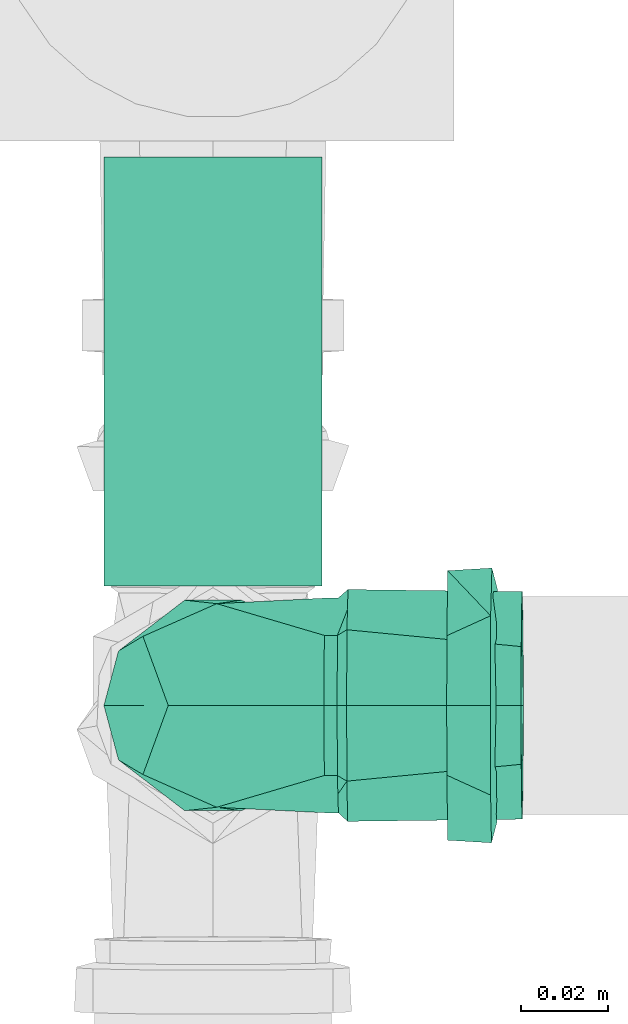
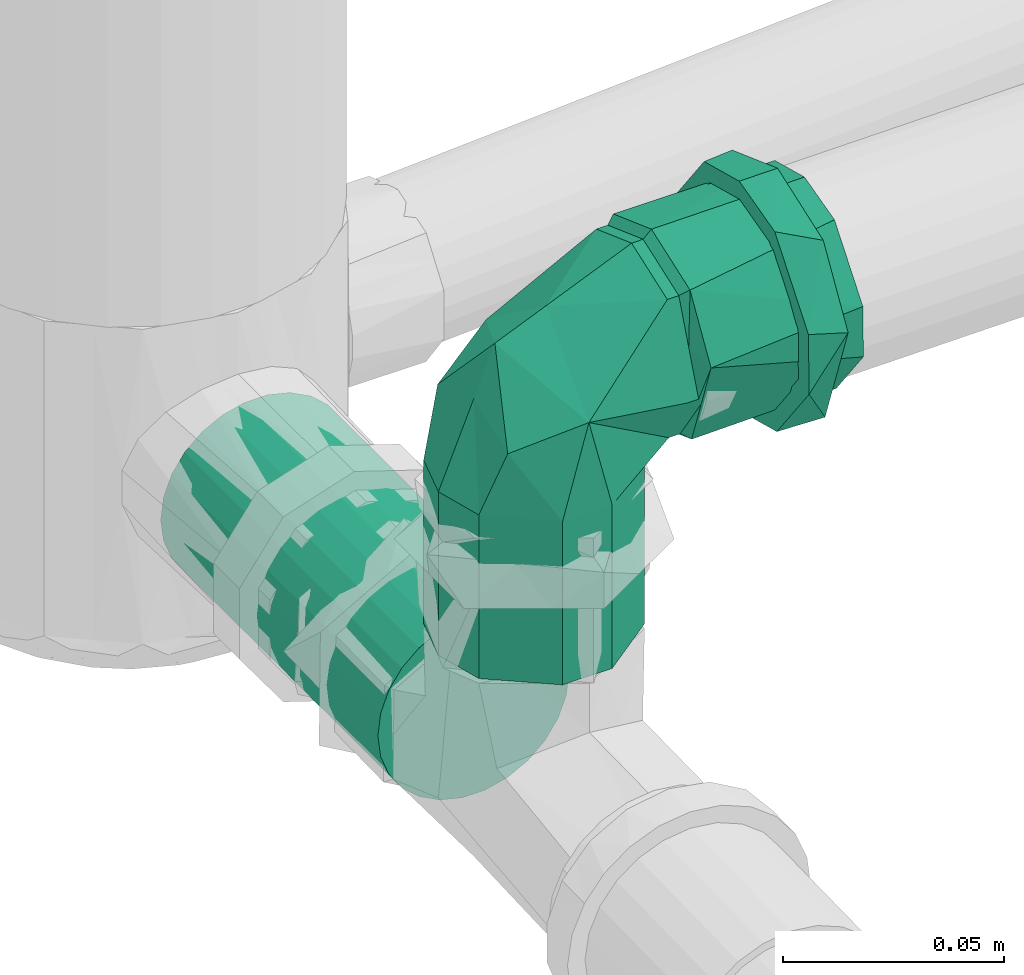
# One storey, part 134 of 589: 1 flow fitting, 1 flow segment.
"""IFC2X3 building model written with IfcOpenShell, lengths in millimetres."""

import ifcopenshell
import ifcopenshell.guid

model = None  # the IFC model being written
_history = None  # IfcOwnerHistory: only IFC2X3 demands one
_inside = {}  # id of a spatial element -> (the spatial element, [elements in it])
_under = {}  # id of a project, library or spatial element -> (it, [spatial elements below it])
_declared = {}  # id of a project -> (the project, [libraries it declares])
_typed = {}  # id of a type object -> (the type object, [elements of that type])
_made_of = {}  # id of a material, layer set ... -> (it, [elements and type objects made of it])


def new_model(schema):
    """Start an empty IFC model of exactly this schema.

    Asked for "IFC4X3", IfcOpenShell would pick the latest addendum, in which some entities
    have other attributes; the version numbers below select the first issue.
    IFC2X3 requires an IfcOwnerHistory on every rooted entity: one is made here for all.
    """
    global model, _history
    if schema == "IFC4X3":
        model = ifcopenshell.file(schema_version=(4, 3, 0, 0))
    else:
        model = ifcopenshell.file(schema=schema)
    _inside.clear()
    _under.clear()
    _declared.clear()
    _typed.clear()
    _made_of.clear()
    _history = None
    if model.schema == "IFC2X3":
        org = make("IfcOrganization", Name="unknown")
        user = make(
            "IfcPersonAndOrganization",
            ThePerson=make("IfcPerson", FamilyName="unknown"),
            TheOrganization=org,
        )
        app = make(
            "IfcApplication",
            ApplicationDeveloper=org,
            Version="unknown",
            ApplicationFullName="unknown",
            ApplicationIdentifier="unknown",
        )
        _history = make(
            "IfcOwnerHistory",
            OwningUser=user,
            OwningApplication=app,
            ChangeAction="ADDED",
            CreationDate=0,
        )
    return model


def make(cls, **values):
    """One entity of the class cls with the attributes given. An attribute that is None is left unset."""
    return model.create_entity(
        cls, **{name: value for name, value in values.items() if value is not None}
    )


def entity(cls, *values):
    """Any entity or typed value of the class cls, its attributes in the order of the schema. None: left unset."""
    e = model.create_entity(cls)
    for i, value in enumerate(values):
        if value is not None:
            e[i] = value
    return e


def rooted(cls, **values):
    """An entity with a GlobalId (a new one), such as an element, a storey or a relation."""
    return make(cls, GlobalId=ifcopenshell.guid.new(), OwnerHistory=_history, **values)


def si_unit(unit_type, name, prefix=None):
    """IfcSIUnit, for example si_unit("LENGTHUNIT", "METRE", prefix="MILLI")."""
    return make("IfcSIUnit", UnitType=unit_type, Prefix=prefix, Name=name)


def converted_unit(unit_type, name, factor, base, dimensions=None, offset=None):
    """IfcConversionBasedUnit, such as the inch: factor (a typed value) times the base unit."""
    return make(
        "IfcConversionBasedUnit"
        if offset is None
        else "IfcConversionBasedUnitWithOffset",
        ConversionOffset=offset,
        Dimensions=None
        if dimensions is None
        else entity("IfcDimensionalExponents", *dimensions),
        UnitType=unit_type,
        Name=name,
        ConversionFactor=make(
            "IfcMeasureWithUnit", ValueComponent=factor, UnitComponent=base
        ),
    )


def derived_unit(unit_type, elements):
    """IfcDerivedUnit: a product of units, each with its exponent."""
    return make(
        "IfcDerivedUnit",
        Elements=[
            make("IfcDerivedUnitElement", Unit=unit, Exponent=power)
            for unit, power in elements
        ],
        UnitType=unit_type,
    )


def assignment(units):
    """IfcUnitAssignment: the units of a project."""
    return None if units is None else make("IfcUnitAssignment", Units=units)


def point(xyz):
    """IfcCartesianPoint."""
    return None if xyz is None else make("IfcCartesianPoint", Coordinates=xyz)


def direction(xyz):
    """IfcDirection."""
    return None if xyz is None else make("IfcDirection", DirectionRatios=xyz)


def frame(location, z_axis=None, x_axis=None):
    """IfcAxis2Placement3D, a coordinate frame: its origin and axes. An axis left out is left unset."""
    return make(
        "IfcAxis2Placement3D",
        Location=point(location),
        Axis=direction(z_axis),
        RefDirection=direction(x_axis),
    )


def frame_2d(location, x_axis=None):
    """IfcAxis2Placement2D, a coordinate frame in the plane: its origin and x axis."""
    return make(
        "IfcAxis2Placement2D", Location=point(location), RefDirection=direction(x_axis)
    )


def origin():
    """The frame at (0, 0, 0) with its axes left unset."""
    return frame((0.0, 0.0, 0.0))


def place(relative_to, where):
    """IfcLocalPlacement: puts the frame where relative to a parent placement (None: the world)."""
    return make(
        "IfcLocalPlacement", PlacementRelTo=relative_to, RelativePlacement=where
    )


def context(
    kind, dimensions, precision=None, world=None, true_north=None, identifier=None
):
    """IfcGeometricRepresentationContext, for example the 3D "Model" context."""
    return make(
        "IfcGeometricRepresentationContext",
        ContextIdentifier=identifier,
        ContextType=kind,
        CoordinateSpaceDimension=dimensions,
        Precision=precision,
        WorldCoordinateSystem=world,
        TrueNorth=true_north,
    )


def subcontext(parent, identifier, kind, view, scale=None):
    """IfcGeometricRepresentationSubContext, for example "Body" below "Model"."""
    return make(
        "IfcGeometricRepresentationSubContext",
        ContextIdentifier=identifier,
        ContextType=kind,
        ParentContext=parent,
        TargetScale=scale,
        TargetView=view,
    )


def project(units=None, contexts=None):
    """IfcProject with its units and contexts."""
    return rooted(
        "IfcProject",
        Name="project",
        RepresentationContexts=contexts,
        UnitsInContext=assignment(units),
    )


def spatial(cls, under=None, at=None, **own):
    """A site, building, storey or space (cls), placed at a placement, below another one or the project."""
    s = rooted(cls, ObjectPlacement=at, **own)
    if under is not None:
        _under.setdefault(under.id(), (under, []))[1].append(s)
    return s


def profile(cls, at=None, kind="AREA", **sizes):
    """A parametric profile (cls). Its sizes go by their IFC names, for example OverallWidth=200.0."""
    return make(cls, ProfileType=kind, Position=at, **sizes)


def circle(**sizes):
    """IfcCircleProfileDef."""
    return profile("IfcCircleProfileDef", **sizes)


def extrude(swept, where, along, depth):
    """IfcExtrudedAreaSolid: the profile swept, set in the frame where, extruded along a direction by depth."""
    return make(
        "IfcExtrudedAreaSolid",
        SweptArea=swept,
        Position=where,
        ExtrudedDirection=direction(along),
        Depth=depth,
    )


def faces_of(points, faces, orient=None, outer=None):
    """IfcFace entities. A face is a list of loops; a loop is a list of indices into points, from 0.

    orient and outer hold one flag for each loop. By default every Orientation is true, the
    first loop of a face is its IfcFaceOuterBound and the others are IfcFaceBound.
    """
    made = []
    for i, loops in enumerate(faces):
        bounds = []
        for j, loop in enumerate(loops):
            is_outer = j == 0 if outer is None else outer[i][j]
            bounds.append(
                make(
                    "IfcFaceOuterBound" if is_outer else "IfcFaceBound",
                    Bound=make("IfcPolyLoop", Polygon=[points[k] for k in loop]),
                    Orientation=True if orient is None else orient[i][j],
                )
            )
        made.append(make("IfcFace", Bounds=bounds))
    return made


def faceted_brep(points, faces, orient=None, outer=None, voids=None):
    """IfcFacetedBrep: a solid bounded by flat faces; with voids (closed shells), ...WithVoids."""
    shared = [point(p) for p in points]
    hull = make("IfcClosedShell", CfsFaces=faces_of(shared, faces, orient, outer))
    if voids is None:
        return make("IfcFacetedBrep", Outer=hull)
    return make(
        "IfcFacetedBrepWithVoids",
        Outer=hull,
        Voids=[
            make(cls, CfsFaces=faces_of(shared, fs, o, b)) for cls, fs, o, b in voids
        ],
    )


def shape(context_of_items, identifier, shape_type, items):
    """IfcShapeRepresentation: the items that make up one representation, for example the "Body"."""
    return make(
        "IfcShapeRepresentation",
        ContextOfItems=context_of_items,
        RepresentationIdentifier=identifier,
        RepresentationType=shape_type,
        Items=items,
    )


def source(mapping_origin, context_of_items, identifier, shape_type, items):
    """IfcRepresentationMap: a shape defined once, which mapped items show again and again."""
    return make(
        "IfcRepresentationMap",
        MappingOrigin=mapping_origin,
        MappedRepresentation=shape(context_of_items, identifier, shape_type, items),
    )


def transform(
    local_origin,
    x_axis=None,
    y_axis=None,
    z_axis=None,
    scale=None,
    scale2=None,
    scale3=None,
    uniform=True,
):
    """IfcCartesianTransformationOperator3D, or its non-uniform kind. x_axis, y_axis, z_axis: its Axis1, 2, 3."""
    if uniform:
        return make(
            "IfcCartesianTransformationOperator3D",
            Axis1=direction(x_axis),
            Axis2=direction(y_axis),
            LocalOrigin=point(local_origin),
            Scale=scale,
            Axis3=direction(z_axis),
        )
    return make(
        "IfcCartesianTransformationOperator3DnonUniform",
        Axis1=direction(x_axis),
        Axis2=direction(y_axis),
        LocalOrigin=point(local_origin),
        Scale=scale,
        Axis3=direction(z_axis),
        Scale2=scale2,
        Scale3=scale3,
    )


def mapped(mapping_source, mapping_target):
    """IfcMappedItem: shows the shape of a source again, moved by a transform."""
    return make(
        "IfcMappedItem", MappingSource=mapping_source, MappingTarget=mapping_target
    )


def material(Name=None, Category=None):
    """IfcMaterial."""
    return make("IfcMaterial", Name=Name, Category=Category)


def made_of(thing, what):
    """Note that an element or type object is made of a material, layer set ...; save() writes the relation."""
    if what is not None:
        _made_of.setdefault(what.id(), (what, []))[1].append(thing)
    return thing


def type_object(cls, material=None, **own):
    """A type object (cls), such as IfcWallType, which elements share."""
    return made_of(rooted(cls, **own), material)


def type_shapes(of_type, sources):
    """Give a type object the sources (RepresentationMaps) that its elements show as mapped items."""
    of_type.RepresentationMaps = sources


def element(
    cls,
    number,
    at=None,
    inside=None,
    cuts=None,
    type_object=None,
    material=None,
    context=None,
    identifier="Body",
    shape_type=None,
    held_by="IfcProductDefinitionShape",
    body=None,
    shapes=None,
    **own,
):
    """One element of the class cls, such as IfcWall. Its Tag is "e" and its number.

    at: its placement. inside: the storey or other place that contains it. cuts: it is an
    opening in that element (IfcRelVoidsElement). A single representation is given by context,
    identifier, shape_type and body (its items); several are given by shapes. held_by: the class
    of the entity that holds the representations. save() writes the other relations.
    """
    e = rooted(cls, Tag="e%d" % number, ObjectPlacement=at, **own)
    if body is not None:
        shapes = [shape(context, identifier, shape_type, body)]
    if shapes is not None:
        e.Representation = make(held_by, Representations=shapes)
    if inside is not None:
        _inside.setdefault(inside.id(), (inside, []))[1].append(e)
    if cuts is not None:
        rooted(
            "IfcRelVoidsElement", RelatingBuildingElement=cuts, RelatedOpeningElement=e
        )
    if type_object is not None:
        _typed.setdefault(type_object.id(), (type_object, []))[1].append(e)
    return made_of(e, material)


def aggregate(whole, parts):
    """IfcRelAggregates: a whole, such as a stair, and the parts it consists of."""
    return rooted("IfcRelAggregates", RelatingObject=whole, RelatedObjects=parts)


def save(model, path):
    """Write the relations noted so far, then the file.

    IfcRelAggregates (storeys below a building ...), IfcRelContainedInSpatialStructure (elements
    in a storey), IfcRelDefinesByType, IfcRelAssociatesMaterial and IfcRelDeclares: one each for
    every whole, place, type object, material and project.
    """
    for whole, parts in _under.values():
        aggregate(whole, parts)
    for where, things in _inside.values():
        rooted(
            "IfcRelContainedInSpatialStructure",
            RelatedElements=things,
            RelatingStructure=where,
        )
    for kind, things in _typed.values():
        rooted("IfcRelDefinesByType", RelatedObjects=things, RelatingType=kind)
    for what, things in _made_of.values():
        rooted("IfcRelAssociatesMaterial", RelatedObjects=things, RelatingMaterial=what)
    for by, libraries in _declared.values():
        rooted("IfcRelDeclares", RelatingContext=by, RelatedDefinitions=libraries)
    model.write(path)


model = new_model("IFC2X3")

# Units and contexts
model_context = context("Model", 3, precision=0.01, world=origin(), true_north=direction((6.123031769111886e-17, 1.0)))
body_context = subcontext(model_context, "Body", "Model", "MODEL_VIEW")
ifc_project = project(units=[si_unit("LENGTHUNIT", "METRE", prefix="MILLI"), si_unit("AREAUNIT", "SQUARE_METRE"), si_unit("VOLUMEUNIT", "CUBIC_METRE"), converted_unit("PLANEANGLEUNIT", "DEGREE", entity("IfcRatioMeasure", 0.017453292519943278), si_unit("PLANEANGLEUNIT", "RADIAN"), dimensions=[0, 0, 0, 0, 0, 0, 0]), si_unit("MASSUNIT", "GRAM", prefix="KILO"), derived_unit("MASSDENSITYUNIT", [(si_unit("MASSUNIT", "GRAM", prefix="KILO"), 1), (si_unit("LENGTHUNIT", "METRE"), -3)]), derived_unit("IONCONCENTRATIONUNIT", [(si_unit("MASSUNIT", "GRAM", prefix="KILO"), 1), (si_unit("LENGTHUNIT", "METRE"), -3)]), derived_unit("MOMENTOFINERTIAUNIT", [(si_unit("LENGTHUNIT", "METRE"), 4)]), si_unit("TIMEUNIT", "SECOND"), si_unit("FREQUENCYUNIT", "HERTZ"), si_unit("THERMODYNAMICTEMPERATUREUNIT", "DEGREE_CELSIUS"), derived_unit("THERMALTRANSMITTANCEUNIT", [(si_unit("MASSUNIT", "GRAM", prefix="KILO"), 1), (si_unit("THERMODYNAMICTEMPERATUREUNIT", "KELVIN"), -1), (si_unit("TIMEUNIT", "SECOND"), -3)]), derived_unit("THERMALCONDUCTANCEUNIT", [(si_unit("MASSUNIT", "GRAM", prefix="KILO"), 1), (si_unit("THERMODYNAMICTEMPERATUREUNIT", "KELVIN"), -1), (si_unit("TIMEUNIT", "SECOND"), -3), (si_unit("LENGTHUNIT", "METRE"), 1)]), derived_unit("VOLUMETRICFLOWRATEUNIT", [(si_unit("LENGTHUNIT", "METRE"), 3), (si_unit("TIMEUNIT", "SECOND"), -1)]), derived_unit("MASSFLOWRATEUNIT", [(si_unit("MASSUNIT", "GRAM", prefix="KILO"), 1), (si_unit("TIMEUNIT", "SECOND"), -1)]), derived_unit("ROTATIONALFREQUENCYUNIT", [(si_unit("TIMEUNIT", "SECOND"), -1)]), si_unit("ELECTRICCURRENTUNIT", "AMPERE"), si_unit("ELECTRICVOLTAGEUNIT", "VOLT"), si_unit("POWERUNIT", "WATT"), si_unit("FORCEUNIT", "NEWTON", prefix="KILO"), si_unit("ILLUMINANCEUNIT", "LUX"), si_unit("LUMINOUSFLUXUNIT", "LUMEN"), si_unit("LUMINOUSINTENSITYUNIT", "CANDELA"), derived_unit("USERDEFINED", [(si_unit("MASSUNIT", "GRAM", prefix="KILO"), -1), (si_unit("LENGTHUNIT", "METRE"), -2), (si_unit("TIMEUNIT", "SECOND"), 3), (si_unit("LUMINOUSFLUXUNIT", "LUMEN"), 1)]), derived_unit("USERDEFINED", [(si_unit("MASSUNIT", "GRAM", prefix="KILO"), 1), (si_unit("TIMEUNIT", "SECOND"), -3), (si_unit("LENGTHUNIT", "METRE"), 3), (si_unit("ELECTRICCURRENTUNIT", "AMPERE"), -2)]), derived_unit("SOUNDPOWERUNIT", [(si_unit("MASSUNIT", "GRAM", prefix="KILO"), 1), (si_unit("TIMEUNIT", "SECOND"), -3), (si_unit("LENGTHUNIT", "METRE"), 2)]), derived_unit("SOUNDPRESSUREUNIT", [(si_unit("MASSUNIT", "GRAM", prefix="KILO"), 1), (si_unit("LENGTHUNIT", "METRE"), -1), (si_unit("TIMEUNIT", "SECOND"), -2)]), derived_unit("LINEARVELOCITYUNIT", [(si_unit("LENGTHUNIT", "METRE"), 1), (si_unit("TIMEUNIT", "SECOND"), -1)]), si_unit("PRESSUREUNIT", "PASCAL"), derived_unit("USERDEFINED", [(si_unit("MASSUNIT", "GRAM", prefix="KILO"), 1), (si_unit("LENGTHUNIT", "METRE"), -2), (si_unit("TIMEUNIT", "SECOND"), -2)]), derived_unit("LINEARFORCEUNIT", [(si_unit("MASSUNIT", "GRAM", prefix="KILO"), 1), (si_unit("TIMEUNIT", "SECOND"), -2)]), derived_unit("PLANARFORCEUNIT", [(si_unit("MASSUNIT", "GRAM", prefix="KILO"), 1), (si_unit("LENGTHUNIT", "METRE"), -1), (si_unit("TIMEUNIT", "SECOND"), -2)]), derived_unit("SPECIFICHEATCAPACITYUNIT", [(si_unit("THERMODYNAMICTEMPERATUREUNIT", "KELVIN"), -1), (si_unit("LENGTHUNIT", "METRE"), 2), (si_unit("TIMEUNIT", "SECOND"), -2)]), derived_unit("HEATINGVALUEUNIT", [(si_unit("LENGTHUNIT", "METRE"), 2), (si_unit("TIMEUNIT", "SECOND"), -2)]), derived_unit("VAPORPERMEABILITYUNIT", [(si_unit("LENGTHUNIT", "METRE"), -1), (si_unit("TIMEUNIT", "SECOND"), 1)]), derived_unit("DYNAMICVISCOSITYUNIT", [(si_unit("MASSUNIT", "GRAM", prefix="KILO"), 1), (si_unit("TIMEUNIT", "SECOND"), -1), (si_unit("LENGTHUNIT", "METRE"), -1)]), derived_unit("THERMALEXPANSIONCOEFFICIENTUNIT", [(si_unit("THERMODYNAMICTEMPERATUREUNIT", "KELVIN"), -1)]), derived_unit("MODULUSOFELASTICITYUNIT", [(si_unit("MASSUNIT", "GRAM", prefix="KILO"), 1), (si_unit("LENGTHUNIT", "METRE"), -1), (si_unit("TIMEUNIT", "SECOND"), -2)]), derived_unit("ISOTHERMALMOISTURECAPACITYUNIT", [(si_unit("LENGTHUNIT", "METRE"), 3), (si_unit("MASSUNIT", "GRAM", prefix="KILO"), -1)]), derived_unit("MOISTUREDIFFUSIVITYUNIT", [(si_unit("TIMEUNIT", "SECOND"), -1), (si_unit("LENGTHUNIT", "METRE"), 2)])], contexts=[model_context])

# Site, building, storey
site_placement = place(None, origin())
site = spatial("IfcSite", under=ifc_project, at=site_placement, Name="Default", CompositionType="ELEMENT")
building_placement = place(site_placement, origin())
building = spatial("IfcBuilding", under=site, at=building_placement, CompositionType="ELEMENT")
storey_placement = place(building_placement, frame((0.0, 0.0, 100.0)))
storey = spatial("IfcBuildingStorey", under=building, at=storey_placement, Name="TÉRREO", CompositionType="ELEMENT", Elevation=100.0)

# Flow segment
pipe_segment_type = type_object("IfcPipeSegmentType", Name="Tipos de tubos:PVC Esgoto Série Normal", PredefinedType="NOTDEFINED")
flow_segment_placement = place(storey_placement, origin())
element("IfcFlowSegment", 1, at=flow_segment_placement, inside=storey, type_object=pipe_segment_type, Name="Tipos de tubos:PVC Esgoto Série Normal", ObjectType="Tipos de tubos:PVC Esgoto Série Normal", context=body_context, shape_type="SweptSolid", body=[
    extrude(circle(Radius=25.0, at=frame_2d((0.0, -1.6919798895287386e-14), x_axis=(1.0, 0.0))), frame((9003.026170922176, -9866.636274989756, -188.50286149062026), z_axis=(0.0, 1.0, 0.0), x_axis=(-1.0, 0.0, 0.0)), (0.0, 0.0, 1.0), 98.3565976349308),
])

# Flow fitting
ifc_material = material(Name="PVC Série Normal")
pipe_fitting_type = type_object("IfcPipeFittingType", Name="PVC Esgoto_Joelho 45_90_Rodrigo MEP:a. Série Normal", PredefinedType="NOTDEFINED", material=ifc_material)
shared_shape = source(origin(), body_context, "Body", "Brep", [
    faceted_brep([(-70.94129996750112, -21.650635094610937, -12.500000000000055), (-70.94129996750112, -25.0, 0.0), (-70.94129996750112, -21.650635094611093, 12.499999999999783), (-70.94129996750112, -6.470476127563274, 24.148145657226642), (-70.94129996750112, 6.470476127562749, 24.14814565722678), (-70.94129996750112, 21.650635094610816, 12.500000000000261), (-70.94129996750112, 25.0, 0.0), (-70.94129996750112, 21.650635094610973, -12.499999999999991), (-70.94129996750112, 6.4704761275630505, -24.1481456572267), (-70.94129996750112, -6.4704761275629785, -24.14814565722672), (-25.74129996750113, 6.4704761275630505, -24.1481456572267), (-25.74129996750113, 21.650635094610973, -12.499999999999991), (-25.74129996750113, 25.0, 0.0), (-25.74129996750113, 21.650635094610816, 12.500000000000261), (-25.74129996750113, 6.470476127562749, 24.14814565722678), (-25.74129996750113, -6.470476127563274, 24.148145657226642), (-25.74129996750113, -21.650635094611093, 12.499999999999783), (-25.74129996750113, -25.0, 0.0), (-25.74129996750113, -21.650635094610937, -12.500000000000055), (-25.74129996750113, -6.4704761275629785, -24.14814565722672)], [[[0, 1, 2, 3, 4, 5, 6, 7, 8, 9]], [[10, 11, 12, 13, 14, 15, 16, 17, 18, 19]], [[1, 17, 16, 2]], [[2, 16, 15, 3]], [[15, 14, 4, 3]], [[4, 14, 13, 5]], [[5, 13, 12, 6]], [[6, 12, 11, 7]], [[7, 11, 10, 8]], [[10, 19, 9, 8]], [[9, 19, 18, 0]], [[0, 18, 17, 1]]]),
    faceted_brep([(7.527150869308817, 53.86872545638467, -26.079997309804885), (-6.448378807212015, 54.008480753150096, -26.079997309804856), (-7.742409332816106, 54.02142105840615, -30.90962644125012), (8.8211813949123, 53.85578515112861, -30.90962644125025), (23.920902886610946, 53.70478793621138, -13.500000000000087), (-27.172041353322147, 54.215717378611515, -16.0), (-22.842130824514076, 54.172418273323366, -13.499999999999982), (-26.459264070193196, 54.20858960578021, 0.0), (-31.45901408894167, 54.25858710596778, 0.0), (-22.842130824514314, 54.172418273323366, 13.499999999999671), (-27.17204135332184, 54.21571737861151, 16.0), (-6.448378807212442, 54.008480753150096, 26.079997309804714), (-7.742409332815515, 54.02142105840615, 30.909626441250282), (7.527150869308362, 53.86872545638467, 26.07999730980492), (8.821181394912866, 53.8557851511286, 30.909626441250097), (23.92090288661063, 53.70478793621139, 13.500000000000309), (28.250813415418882, 53.66148883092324, 16.0), (32.53778615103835, 53.618619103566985, 0.0), (27.538036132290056, 53.66861660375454, 0.0), (28.250813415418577, 53.66148883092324, -16.0), (32.63778115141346, 63.61811914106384, 0.0), (25.150431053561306, 63.692992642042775, 20.570569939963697), (-4.921474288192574, 63.99371169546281, 31.513073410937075), (-23.876827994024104, 64.1832652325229, 20.564420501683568), (-31.359019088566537, 64.25808714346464, 0.0), (-23.876827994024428, 64.1832652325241, -20.564420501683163), (6.192331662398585, 63.88257363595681, -31.51446740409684), (25.150431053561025, 63.692992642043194, -20.57056993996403), (-26.35926906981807, 64.20808964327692, 0.0), (-26.346269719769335, 65.50802464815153, 0.0), (-24.550702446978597, 64.19000397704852, 6.749999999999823), (-22.742135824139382, 64.1719183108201, 13.49999999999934), (-18.643697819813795, 64.1309339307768, 16.644999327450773), (-14.545259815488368, 64.08994955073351, 19.789998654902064), (-10.446821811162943, 64.04896517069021, 22.934997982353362), (-6.34838380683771, 64.00798079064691, 26.07999730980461), (0.63938103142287, 63.938103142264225, 26.07999730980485), (7.627145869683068, 63.86822549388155, 26.079997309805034), (11.725583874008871, 63.82724111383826, 22.934997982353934), (15.824021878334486, 63.78625673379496, 19.789998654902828), (19.922459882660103, 63.74527235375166, 16.64499932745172), (24.020897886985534, 63.70428797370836, 13.500000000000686), (25.82946450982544, 63.686202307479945, 6.750000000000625), (27.65103048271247, 64.96805164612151, 0.0), (27.638031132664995, 63.66811664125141, 0.0), (25.82946450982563, 63.686202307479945, -6.750000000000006), (24.020897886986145, 63.70428797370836, -13.499999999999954), (19.922459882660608, 63.74527235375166, -16.644999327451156), (15.824021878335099, 63.78625673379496, -19.789998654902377), (11.72558387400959, 63.82724111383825, -22.934997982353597), (7.62714586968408, 63.86822549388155, -26.07999730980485), (0.6393810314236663, 63.938103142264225, -26.079997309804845), (-6.348383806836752, 64.0079807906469, -26.079997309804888), (-10.446821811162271, 64.0489651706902, -22.93499798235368), (-14.545259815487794, 64.0899495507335, -19.78999865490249), (-18.64369781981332, 64.1309339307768, -16.644999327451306), (-22.742135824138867, 64.17191831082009, -13.50000000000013), (-24.550702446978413, 64.1900039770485, -6.7500000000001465), (24.494481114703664, 64.99961713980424, 8.675614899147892), (21.337931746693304, 65.03118263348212, 17.3512297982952), (14.995218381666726, 65.09460976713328, 19.661005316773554), (8.652505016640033, 65.15803690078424, 21.970780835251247), (2.3097916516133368, 65.22146403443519, 24.280556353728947), (-4.032921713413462, 65.28489116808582, 26.590331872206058), (-20.02881807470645, 65.44485013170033, 17.356418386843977), (-23.187543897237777, 65.47643738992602, 8.678209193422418), (-12.030869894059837, 65.36487064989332, 21.97337512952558), (-23.187543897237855, 65.47643738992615, -8.678209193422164), (-20.028818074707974, 65.44485013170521, -17.35641838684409), (-13.68552554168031, 65.38141720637, -19.664602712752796), (-7.342233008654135, 65.31798428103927, -21.972787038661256), (-0.998940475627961, 65.25455135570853, -24.280971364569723), (5.344352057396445, 65.1911184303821, -26.589155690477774), (21.3379317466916, 65.03118263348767, -17.35122979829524), (24.494481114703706, 64.9996171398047, -8.675614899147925), (13.34114190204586, 65.11115053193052, -21.970192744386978)], [[[0, 1, 2]], [[2, 3, 0]], [[4, 0, 3]], [[5, 2, 1]], [[1, 6, 5]], [[6, 7, 5]], [[8, 5, 7]], [[8, 7, 9]], [[10, 8, 9]], [[9, 11, 10]], [[11, 12, 10]], [[13, 12, 11]], [[12, 13, 14]], [[13, 15, 14]], [[16, 14, 15]], [[16, 15, 17]], [[17, 15, 18]], [[18, 4, 19]], [[17, 18, 19]], [[3, 19, 4]], [[20, 21, 16]], [[20, 16, 17]], [[16, 21, 14]], [[21, 22, 14]], [[12, 22, 23]], [[10, 23, 24]], [[23, 10, 12]], [[10, 24, 8]], [[22, 12, 14]], [[24, 25, 5]], [[24, 5, 8]], [[5, 25, 2]], [[25, 26, 2]], [[3, 26, 27]], [[19, 27, 20]], [[27, 19, 3]], [[19, 20, 17]], [[26, 3, 2]], [[9, 7, 28, 29, 30, 31]], [[11, 9, 31, 32, 33, 34, 35]], [[11, 35, 36, 37, 13]], [[15, 13, 37, 38, 39, 40, 41]], [[18, 15, 41, 42, 43, 44]], [[4, 18, 44, 43, 45, 46]], [[0, 4, 46, 47, 48, 49, 50]], [[0, 50, 51, 52, 1]], [[6, 1, 52, 53, 54, 55, 56]], [[7, 6, 56, 57, 29, 28]], [[20, 43, 58, 59]], [[59, 21, 20]], [[21, 59, 60, 61, 62, 63]], [[21, 63, 22]], [[23, 64, 65, 29]], [[23, 22, 64]], [[24, 23, 29]], [[22, 63, 66, 64]], [[25, 29, 67, 68]], [[29, 25, 24]], [[25, 68, 26]], [[26, 68, 69, 70, 71, 72]], [[20, 73, 74, 43]], [[27, 72, 75, 73]], [[27, 73, 20]], [[72, 27, 26]], [[41, 40, 39, 59]], [[31, 65, 64]], [[61, 60, 38]], [[38, 60, 39]], [[63, 62, 36]], [[66, 63, 35]], [[32, 31, 64, 33]], [[36, 62, 37]], [[36, 35, 63]], [[38, 37, 61]], [[34, 33, 66, 35]], [[65, 30, 29]], [[42, 58, 43]], [[60, 59, 39]], [[37, 62, 61]], [[58, 41, 59]], [[66, 33, 64]], [[42, 41, 58]], [[65, 31, 30]], [[56, 55, 54, 68]], [[46, 74, 73]], [[70, 69, 53]], [[53, 69, 54]], [[72, 71, 51]], [[75, 72, 50]], [[47, 46, 73, 48]], [[51, 71, 52]], [[51, 50, 72]], [[53, 52, 70]], [[49, 48, 75, 50]], [[74, 45, 43]], [[57, 67, 29]], [[69, 68, 54]], [[52, 71, 70]], [[67, 56, 68]], [[75, 48, 73]], [[57, 56, 67]], [[74, 46, 45]]]),
    faceted_brep([(-21.34015511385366, 31.156248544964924, 12.50000000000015), (-6.160755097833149, 31.004454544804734, 24.14814565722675), (6.77955015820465, 30.875051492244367, 24.148145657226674), (21.958950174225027, 30.723257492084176, 12.499999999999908), (25.308147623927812, 30.68976551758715, 0.0), (21.95895017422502, 30.723257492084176, -12.499999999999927), (6.7795501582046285, 30.875051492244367, -24.148145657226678), (-6.160755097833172, 31.004454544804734, -24.14814565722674), (-21.340155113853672, 31.156248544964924, -12.500000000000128), (-24.689352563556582, 31.18974051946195, 0.0), (25.286148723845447, 28.48987550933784, 0.0), (19.440686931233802, 28.54833012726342, -16.065953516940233), (27.308047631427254, 30.66976651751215, 0.0), (-7.690727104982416, 31.019754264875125, -21.97078083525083), (4.994699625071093, 30.892899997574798, -26.5903318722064), (-4.05084405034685, 28.783245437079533, -24.62067765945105), (20.9905959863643, 30.732941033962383, -17.35641838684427), (-18.86185919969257, 28.931355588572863, -16.070757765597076), (-20.376153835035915, 31.146608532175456, -17.35122979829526), (7.694921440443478, 28.665787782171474, -20.34331558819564), (-24.711351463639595, 28.989850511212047, 0.0), (-26.68925257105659, 31.209739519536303, 0.0), (-18.861859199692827, 28.931355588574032, 16.07075776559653), (-20.376153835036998, 31.146608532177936, 17.35122979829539), (8.30401092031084, 30.859806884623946, 21.97278703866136), (-4.382574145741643, 30.986672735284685, 26.58915569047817), (4.631816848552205, 28.69641882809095, 24.619588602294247), (19.440686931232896, 28.548330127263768, 16.06595351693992), (20.99059598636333, 30.732941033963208, 17.356418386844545), (-7.115021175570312, 28.813887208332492, 20.345173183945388), (-6.278387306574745, 71.00763081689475, -26.0799973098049), (-5.760775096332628, 71.00245469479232, -24.14814565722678), (7.179530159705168, 70.87305164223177, -24.148145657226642), (-22.67213932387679, 71.17156833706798, -13.499999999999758), (7.697142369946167, 70.86787552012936, -26.07999730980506), (-20.9401751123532, 71.15424869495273, -12.500000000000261), (-24.289372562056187, 71.1877406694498, 0.0), (-26.289272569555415, 71.20773966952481, 0.0), (-20.940175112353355, 71.15424869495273, 12.499999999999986), (-22.672139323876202, 71.17156833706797, 13.50000000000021), (-5.760775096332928, 71.00245469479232, 24.1481456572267), (-6.2783873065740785, 71.00763081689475, 26.07999730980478), (7.179530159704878, 70.87305164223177, 24.148145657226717), (7.697142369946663, 70.86787552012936, 26.079997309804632), (22.358930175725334, 70.72125764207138, 12.500000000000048), (24.09089438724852, 70.70393799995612, 13.499999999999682), (27.708027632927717, 70.66776666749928, 0.0), (25.7081276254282, 70.6877656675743, 0.0), (24.09089438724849, 70.70393799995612, -13.500000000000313), (22.358930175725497, 70.72125764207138, -12.499999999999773), (25.256150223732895, 25.49002549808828, 0.0), (19.407503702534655, 25.548511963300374, 16.069749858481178), (4.598234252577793, 25.69660465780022, 24.62022085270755), (-7.1473471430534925, 25.81406047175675, 20.344851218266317), (-18.892928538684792, 25.93151628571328, 16.069481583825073), (-24.74134996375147, 25.990000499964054, 0.0), (-18.89292853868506, 25.93151628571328, -16.06948158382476), (-4.083778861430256, 25.78342478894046, -24.620160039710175), (19.407503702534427, 25.548511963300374, -16.069749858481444), (7.661862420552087, 25.665968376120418, -20.34495494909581), (-25.741299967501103, -21.65063509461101, 12.499999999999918), (-25.741299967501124, -6.470476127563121, 24.148145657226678), (-25.741299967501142, 6.470476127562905, 24.14814565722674), (-25.741299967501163, 21.650635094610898, 12.500000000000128), (-25.74129996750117, 25.0, 0.0), (-25.741299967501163, 21.65063509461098, -12.499999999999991), (-25.741299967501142, 6.470476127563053, -24.1481456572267), (-25.741299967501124, -6.470476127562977, -24.14814565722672), (-25.741299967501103, -21.650635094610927, -12.500000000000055), (-25.741299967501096, -25.0, 0.0), (-8.793857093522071, -16.047881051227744, 15.848255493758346), (-3.2027279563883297, -15.730161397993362, 0.0), (10.140389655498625, -10.242300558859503, 0.0), (-1.424468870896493, 0.8894555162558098, 23.341145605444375), (15.761400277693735, 3.0452732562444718, 0.0), (-25.037737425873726, 25.289366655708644, 0.0), (-8.793856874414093, -16.047880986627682, -15.84825546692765), (-1.5162390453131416, 0.8510028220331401, -23.354961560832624)], [[[0, 1, 2, 3, 4, 5, 6, 7, 8, 9]], [[10, 11, 12]], [[13, 14, 15]], [[16, 12, 11]], [[13, 17, 18]], [[17, 13, 15]], [[16, 19, 14]], [[17, 20, 18]], [[18, 20, 21]], [[19, 16, 11]], [[14, 19, 15]], [[20, 22, 23]], [[24, 25, 26]], [[23, 21, 20]], [[24, 27, 28]], [[27, 24, 26]], [[23, 29, 25]], [[27, 10, 12]], [[28, 27, 12]], [[29, 23, 22]], [[25, 29, 26]], [[30, 31, 32]], [[31, 30, 33]], [[32, 34, 30]], [[33, 35, 31]], [[33, 36, 35]], [[36, 33, 37]], [[38, 36, 37]], [[38, 37, 39]], [[39, 40, 38]], [[39, 41, 40]], [[40, 41, 42]], [[43, 42, 41]], [[43, 44, 42]], [[44, 43, 45]], [[46, 44, 45]], [[47, 44, 46]], [[48, 47, 46]], [[48, 49, 47]], [[49, 48, 34]], [[34, 32, 49]], [[46, 45, 12]], [[45, 28, 12]], [[28, 45, 43]], [[43, 25, 24, 28]], [[23, 41, 39]], [[21, 39, 37]], [[41, 23, 25]], [[23, 39, 21]], [[41, 25, 43]], [[37, 33, 21]], [[33, 18, 21]], [[18, 33, 30]], [[30, 14, 13, 18]], [[16, 34, 48]], [[12, 48, 46]], [[34, 16, 14]], [[16, 48, 12]], [[34, 14, 30]], [[5, 4, 47, 49]], [[6, 5, 49, 32]], [[32, 31, 7, 6]], [[8, 7, 31, 35]], [[9, 8, 35, 36]], [[0, 9, 36, 38]], [[1, 0, 38, 40]], [[40, 42, 2, 1]], [[3, 2, 42, 44]], [[4, 3, 44, 47]], [[10, 27, 50]], [[27, 51, 50]], [[51, 27, 26]], [[51, 26, 52]], [[52, 29, 53]], [[22, 54, 53]], [[22, 20, 54]], [[26, 29, 52]], [[54, 20, 55]], [[29, 22, 53]], [[20, 17, 56]], [[20, 56, 55]], [[56, 17, 57]], [[58, 59, 19]], [[17, 15, 57]], [[15, 59, 57]], [[58, 19, 11]], [[11, 50, 58]], [[50, 11, 10]], [[59, 15, 19]], [[60, 61, 62, 63, 64, 65, 66, 67, 68, 69]], [[70, 60, 71]], [[72, 73, 70]], [[74, 73, 72]], [[73, 61, 70]], [[70, 61, 60]], [[63, 62, 54]], [[64, 63, 75]], [[60, 69, 71]], [[73, 62, 61]], [[73, 74, 51]], [[74, 50, 51]], [[51, 52, 73]], [[75, 63, 55]], [[72, 70, 71]], [[63, 54, 55]], [[54, 62, 73]], [[73, 52, 53, 54]], [[76, 72, 71]], [[76, 68, 67]], [[65, 64, 75]], [[66, 65, 56]], [[71, 69, 68]], [[67, 77, 76]], [[68, 76, 71]], [[56, 77, 66]], [[55, 56, 65]], [[58, 50, 74]], [[77, 56, 57]], [[74, 77, 58]], [[67, 66, 77]], [[72, 77, 74]], [[77, 57, 59, 58]], [[72, 76, 77]], [[65, 75, 55]]]),
])
type_shapes(pipe_fitting_type, [shared_shape])
flow_fitting_placement = place(storey_placement, frame((9003.026170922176, -9894.030796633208, -78.70945195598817), z_axis=(0.0, 1.0, 0.0), x_axis=(0.0, 0.0, 1.0)))
element("IfcFlowFitting", 2, at=flow_fitting_placement, inside=storey, type_object=pipe_fitting_type, material=ifc_material, Name="PVC Esgoto_Joelho 45_90_Rodrigo MEP:a. Série Normal", ObjectType="PVC Esgoto_Joelho 45_90_Rodrigo MEP:a. Série Normal", context=body_context, shape_type="MappedRepresentation", body=[
    mapped(shared_shape, transform((0.0, 0.0, 0.0), scale=1.0)),
])

save(model, "model.ifc")
